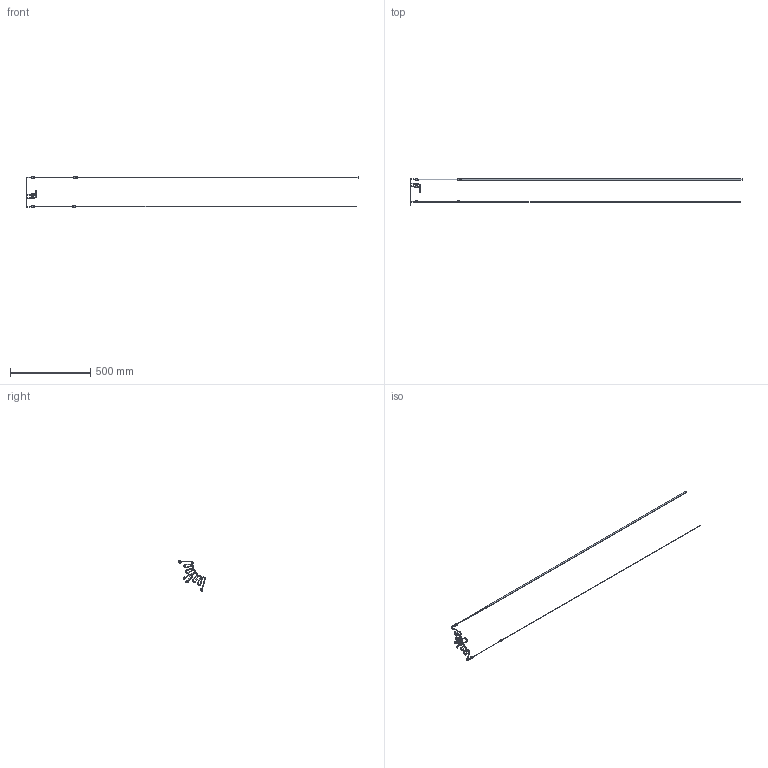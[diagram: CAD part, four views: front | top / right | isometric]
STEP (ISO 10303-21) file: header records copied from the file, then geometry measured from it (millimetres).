
FILE_DESCRIPTION((''),'2;1');
FILE_NAME('SECTOR_COOLING_CIRCUIT_ASM','2002-04-17T',('hartman'),(''),'PRO/ENGINEER BY PARAMETRIC TECHNOLOGY CORPORATION, 2000420','PRO/ENGINEER BY PARAMETRIC TECHNOLOGY CORPORATION, 2000420','');
FILE_SCHEMA(('CONFIG_CONTROL_DESIGN'));
Length unit declared in the file: millimetre
Products named in the file (16): 21F353; 21F357; FITTING_LUER_SECTOR_END; NO_CGL_ASM; U_TUBE_MULTIBEND; FITTING_LUER_RETURN_END; FITTING_LUER_NUT; SECTOR_U_TUBE_W_FITTINGS_ASM; FITTING_LUER_SUPPLY_END; SECTOR_CIRCUIT_CAPILLARY_TUBING; SECTOR_CIRCUIT_EXHAUST_0_TUBING; FITTING_LUER_EXHAUST_8_MM; FITTING_LUER_SUPPLY_2_MM; SECTOR_CIRCUIT_SUPPLY_1_TUBING; SECTOR_CIRCUIT_EXHAUST_1_TUBING; SECTOR_COOLING_CIRCUIT_ASM
Assembly tree (27 placements, depth 3):
  SECTOR_COOLING_CIRCUIT_ASM
    NO_CGL_ASM  x2
      21F353
      21F357
      FITTING_LUER_SECTOR_END
    SECTOR_U_TUBE_W_FITTINGS_ASM
      U_TUBE_MULTIBEND
      FITTING_LUER_RETURN_END  x2
      FITTING_LUER_NUT  x2
    FITTING_LUER_NUT  x4
    FITTING_LUER_SUPPLY_END  x2
    FITTING_LUER_RETURN_END  x2
    SECTOR_CIRCUIT_CAPILLARY_TUBING
    SECTOR_CIRCUIT_EXHAUST_0_TUBING
    FITTING_LUER_EXHAUST_8_MM
    FITTING_LUER_SUPPLY_2_MM
    SECTOR_CIRCUIT_SUPPLY_1_TUBING
    SECTOR_CIRCUIT_EXHAUST_1_TUBING
Bounding box: 2064 x 165.89 x 192.49 mm (x, y, z)
Volume: 37395 mm3; surface area: 173077.6 mm2
Topology: 29 solids, 31 shells, 1374 faces, 3304 edges, 2028 vertices
Faces by surface type: bspline 534, torus 302, plane 254, cylinder 242, extrusion 32, cone 10
Entity records: 67579 total; most frequent: CARTESIAN_POINT 40184, DIRECTION 4388, DEFINITIONAL_REPRESENTATION 2578, PCURVE 2578, ORIENTED_EDGE 2578, VECTOR 2488, LINE 2472, TRIMMED_CURVE 1966
